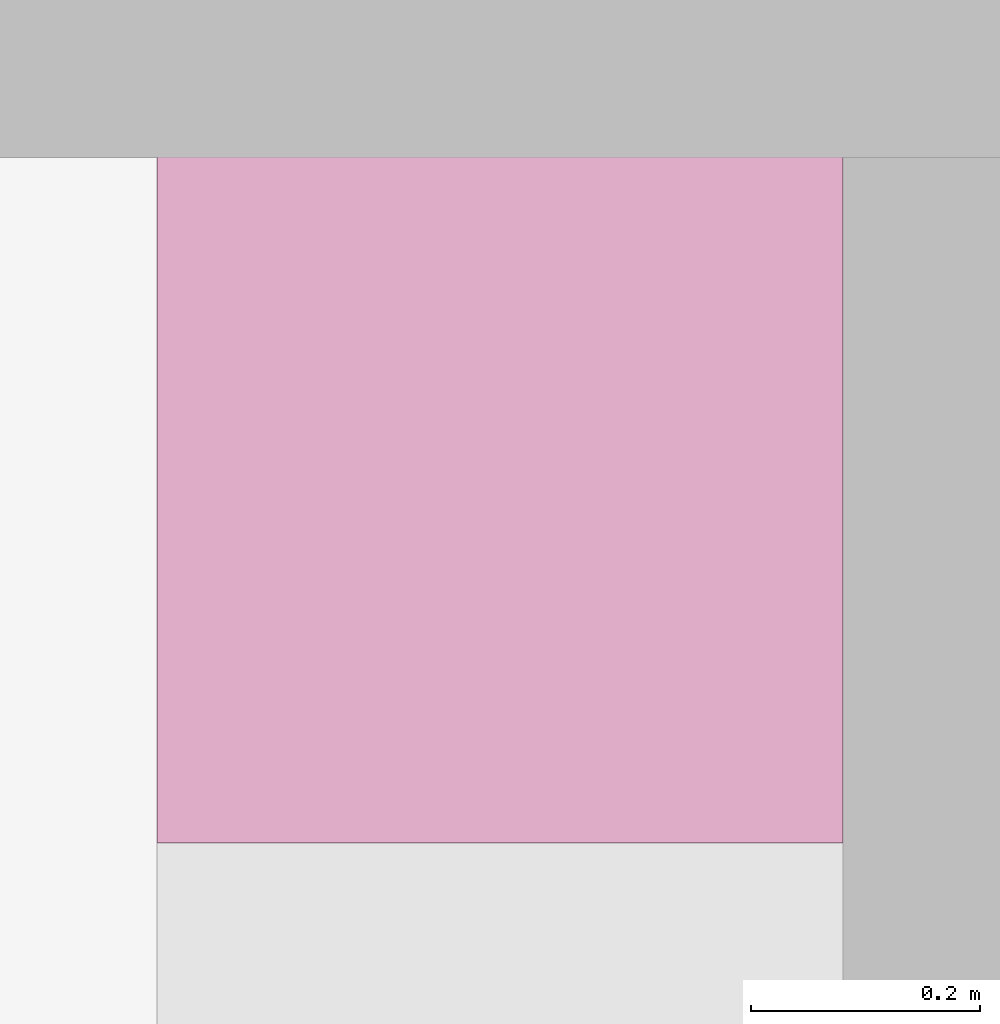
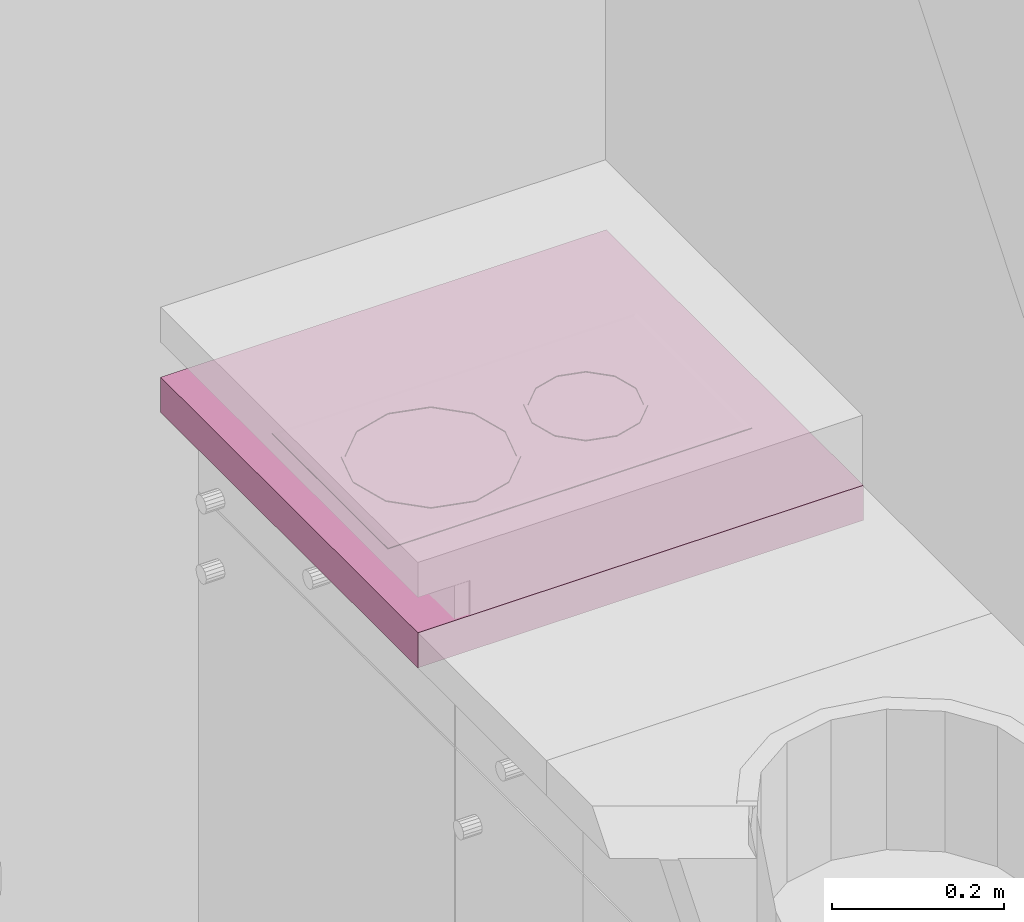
# One storey, part 159 of 165: 1 furnishing.
"""IFC2X3 building model written with IfcOpenShell, lengths in millimetres."""

from ifc_helpers import new_model, entity, si_unit, converted_unit, money_unit, direction, frame, origin_with_axes, place, context, subcontext, project, spatial, faceted_brep, source, transform, mapped, material, material_list, type_object, element, save


model = new_model("IFC2X3")

# Units and contexts
model_context = context("Model", 3, precision=1e-05, world=origin_with_axes(), true_north=direction((0.0, 1.0)))
body_context = subcontext(model_context, "Body", "Model", "MODEL_VIEW")
ifc_project = project(units=[si_unit("LENGTHUNIT", "METRE", prefix="MILLI"), si_unit("AREAUNIT", "SQUARE_METRE"), si_unit("VOLUMEUNIT", "CUBIC_METRE"), converted_unit("PLANEANGLEUNIT", "DEGREE", entity("IfcPlaneAngleMeasure", 0.0174532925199), si_unit("PLANEANGLEUNIT", "RADIAN"), dimensions=[0, 0, 0, 0, 0, 0, 0]), si_unit("SOLIDANGLEUNIT", "STERADIAN"), money_unit("USD"), converted_unit("TIMEUNIT", "Year", entity("IfcTimeMeasure", 31556926.0), si_unit("TIMEUNIT", "SECOND"), dimensions=[0, 0, 0, 0, 0, 0, 0]), si_unit("MASSUNIT", "GRAM"), si_unit("THERMODYNAMICTEMPERATUREUNIT", "DEGREE_CELSIUS"), si_unit("LUMINOUSINTENSITYUNIT", "LUMEN")], contexts=[model_context])

# Site, building, storey
site_placement = place(None, origin_with_axes())
site = spatial("IfcSite", under=ifc_project, at=site_placement, Name="Site", CompositionType="ELEMENT")
building_placement = place(site_placement, origin_with_axes())
building = spatial("IfcBuilding", under=site, at=building_placement, Name="Building", CompositionType="ELEMENT")
storey_placement = place(building_placement, frame((0.0, 0.0, 6300.0), z_axis=(0.0, 0.0, 1.0), x_axis=(1.0, 0.0, 0.0)))
storey = spatial("IfcBuildingStorey", under=building, at=storey_placement, Name="4KORRUS", CompositionType="ELEMENT", Elevation=6300.0)

# Furnishing
ifc_material = material(Name="Background")
ifc_material_list = material_list([ifc_material])
furnishing_element_type = type_object("IfcFurnishingElementType", Name="Built-in Cooktops 19")
shared_shape = source(origin_with_axes(), body_context, "Body", "Brep", [
    faceted_brep([(0.0, 0.0, 850.0), (600.0, 0.0, 850.0), (600.0, 0.0, 900.0), (0.0, 0.0, 900.0), (0.0, 600.0, 850.0), (600.0, 600.0, 850.0), (600.0, 600.0, 900.0), (0.0, 600.0, 900.0)], [[[0, 1, 2, 3]], [[0, 4, 5, 1]], [[1, 5, 6, 2]], [[3, 2, 6, 7]], [[4, 0, 3, 7]], [[5, 4, 7, 6]]]),
    faceted_brep([(165.0, 55.0, 900.0), (165.0, 545.0, 900.0), (435.0, 545.0, 900.0), (435.0, 55.0, 900.0), (165.0, 55.0, 900.8), (165.0, 545.0, 900.8), (435.0, 545.0, 900.8), (435.0, 55.0, 900.8), (171.806, 61.806, 902.0), (171.806, 538.194, 902.0), (428.194, 538.194, 902.0), (428.194, 61.806, 902.0)], [[[0, 1, 2, 3]], [[1, 0, 4, 5]], [[2, 1, 5, 6]], [[3, 2, 6, 7]], [[0, 3, 7, 4]], [[5, 4, 8, 9]], [[6, 5, 9, 10]], [[7, 6, 10, 11]], [[4, 7, 11, 8]], [[10, 9, 8, 11]]]),
    faceted_brep([(195.0, 409.27, 902.0), (209.067, 356.77, 902.0), (209.067, 356.77, 903.0), (195.0, 409.27, 903.0), (209.067, 461.77, 902.0), (247.5, 500.203, 902.0), (300.0, 514.27, 902.0), (352.5, 500.203, 902.0), (390.933, 461.77, 902.0), (405.0, 409.27, 902.0), (390.933, 356.77, 902.0), (352.5, 318.337, 902.0), (300.0, 304.27, 902.0), (247.5, 318.337, 902.0), (200.0, 409.27, 902.0), (213.397, 359.27, 902.0), (250.0, 322.667, 902.0), (300.0, 309.27, 902.0), (350.0, 322.667, 902.0), (386.603, 359.27, 902.0), (400.0, 409.27, 902.0), (386.603, 459.27, 902.0), (350.0, 495.873, 902.0), (300.0, 509.27, 902.0), (250.0, 495.873, 902.0), (213.397, 459.27, 902.0), (247.5, 318.337, 903.0), (300.0, 304.27, 903.0), (352.5, 318.337, 903.0), (390.933, 356.77, 903.0), (405.0, 409.27, 903.0), (390.933, 461.77, 903.0), (352.5, 500.203, 903.0), (300.0, 514.27, 903.0), (247.5, 500.203, 903.0), (209.067, 461.77, 903.0), (200.0, 409.27, 903.0), (213.397, 459.27, 903.0), (250.0, 495.873, 903.0), (300.0, 509.27, 903.0), (350.0, 495.873, 903.0), (386.603, 459.27, 903.0), (400.0, 409.27, 903.0), (386.603, 359.27, 903.0), (350.0, 322.667, 903.0), (300.0, 309.27, 903.0), (250.0, 322.667, 903.0), (213.397, 359.27, 903.0)], [[[0, 1, 2, 3]], [[0, 4, 5, 6, 7, 8, 9, 10, 11, 12, 13, 1], [14, 15, 16, 17, 18, 19, 20, 21, 22, 23, 24, 25]], [[1, 13, 26, 2]], [[3, 2, 26, 27, 28, 29, 30, 31, 32, 33, 34, 35], [36, 37, 38, 39, 40, 41, 42, 43, 44, 45, 46, 47]], [[4, 0, 3, 35]], [[5, 4, 35, 34]], [[6, 5, 34, 33]], [[7, 6, 33, 32]], [[8, 7, 32, 31]], [[9, 8, 31, 30]], [[10, 9, 30, 29]], [[11, 10, 29, 28]], [[12, 11, 28, 27]], [[13, 12, 27, 26]], [[15, 14, 36, 47]], [[16, 15, 47, 46]], [[17, 16, 46, 45]], [[18, 17, 45, 44]], [[19, 18, 44, 43]], [[20, 19, 43, 42]], [[21, 20, 42, 41]], [[22, 21, 41, 40]], [[23, 22, 40, 39]], [[24, 23, 39, 38]], [[25, 24, 38, 37]], [[14, 25, 37, 36]]]),
    faceted_brep([(227.5, 200.53, 902.0), (237.213, 164.28, 902.0), (237.213, 164.28, 903.0), (227.5, 200.53, 903.0), (237.213, 236.78, 902.0), (263.75, 263.317, 902.0), (300.0, 273.03, 902.0), (336.25, 263.317, 902.0), (362.787, 236.78, 902.0), (372.5, 200.53, 902.0), (362.787, 164.28, 902.0), (336.25, 137.743, 902.0), (300.0, 128.03, 902.0), (263.75, 137.743, 902.0), (232.5, 200.53, 902.0), (241.543, 166.78, 902.0), (266.25, 142.073, 902.0), (300.0, 133.03, 902.0), (333.75, 142.073, 902.0), (358.457, 166.78, 902.0), (367.5, 200.53, 902.0), (358.457, 234.28, 902.0), (333.75, 258.987, 902.0), (300.0, 268.03, 902.0), (266.25, 258.987, 902.0), (241.543, 234.28, 902.0), (263.75, 137.743, 903.0), (300.0, 128.03, 903.0), (336.25, 137.743, 903.0), (362.787, 164.28, 903.0), (372.5, 200.53, 903.0), (362.787, 236.78, 903.0), (336.25, 263.317, 903.0), (300.0, 273.03, 903.0), (263.75, 263.317, 903.0), (237.213, 236.78, 903.0), (232.5, 200.53, 903.0), (241.543, 234.28, 903.0), (266.25, 258.987, 903.0), (300.0, 268.03, 903.0), (333.75, 258.987, 903.0), (358.457, 234.28, 903.0), (367.5, 200.53, 903.0), (358.457, 166.78, 903.0), (333.75, 142.073, 903.0), (300.0, 133.03, 903.0), (266.25, 142.073, 903.0), (241.543, 166.78, 903.0)], [[[0, 1, 2, 3]], [[0, 4, 5, 6, 7, 8, 9, 10, 11, 12, 13, 1], [14, 15, 16, 17, 18, 19, 20, 21, 22, 23, 24, 25]], [[1, 13, 26, 2]], [[3, 2, 26, 27, 28, 29, 30, 31, 32, 33, 34, 35], [36, 37, 38, 39, 40, 41, 42, 43, 44, 45, 46, 47]], [[4, 0, 3, 35]], [[5, 4, 35, 34]], [[6, 5, 34, 33]], [[7, 6, 33, 32]], [[8, 7, 32, 31]], [[9, 8, 31, 30]], [[10, 9, 30, 29]], [[11, 10, 29, 28]], [[12, 11, 28, 27]], [[13, 12, 27, 26]], [[15, 14, 36, 47]], [[16, 15, 47, 46]], [[17, 16, 46, 45]], [[18, 17, 45, 44]], [[19, 18, 44, 43]], [[20, 19, 43, 42]], [[21, 20, 42, 41]], [[22, 21, 41, 40]], [[23, 22, 40, 39]], [[24, 23, 39, 38]], [[25, 24, 38, 37]], [[14, 25, 37, 36]]]),
])
furnishing_placement = place(storey_placement, frame((-289.296703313, -13789.2398994, 0.0), z_axis=(0.0, 0.0, 1.0), x_axis=(0.0, 1.0, 0.0)))
element("IfcFurnishingElement", 1, at=furnishing_placement, inside=storey, type_object=furnishing_element_type, material=ifc_material_list, Name="FU - 007", context=body_context, shape_type="MappedRepresentation", body=[
    mapped(shared_shape, transform((0.0, 0.0, 0.0))),
])

save(model, "model.ifc")
